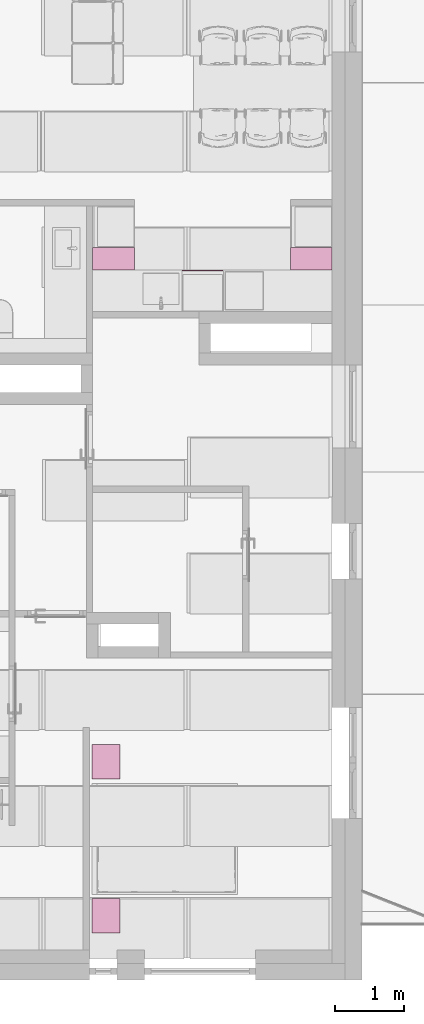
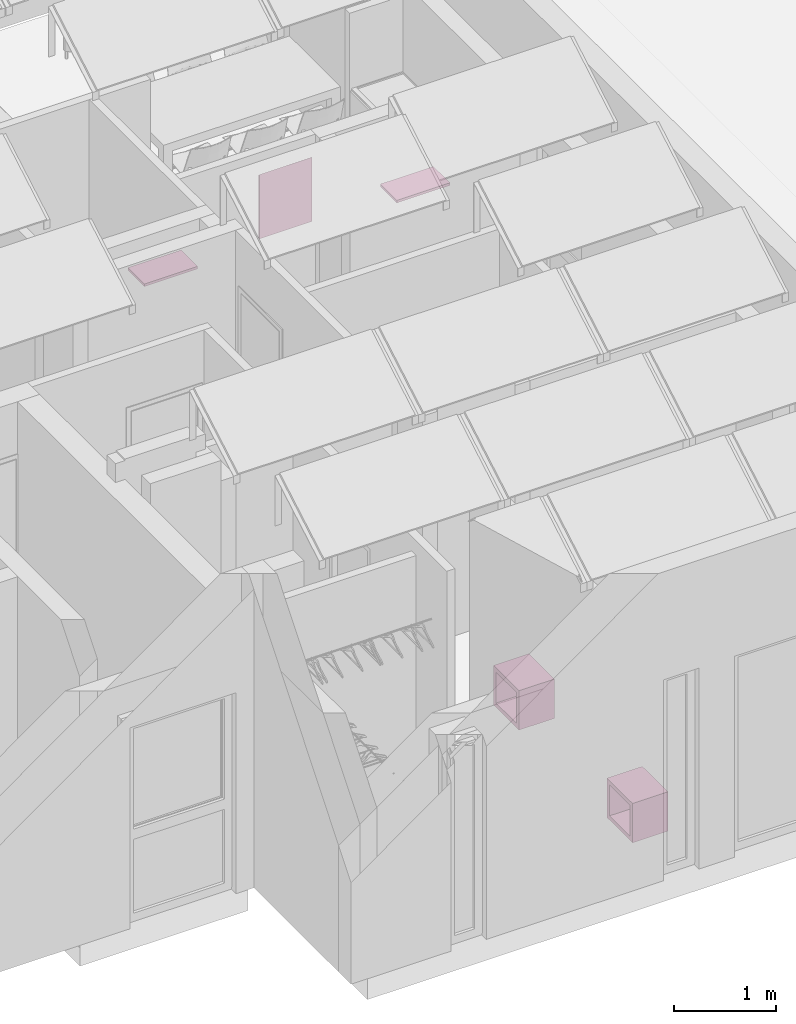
# One storey, part 37 of 57: 5 furnishings.
"""IFC2X3 building model written with IfcOpenShell, lengths in millimetres."""

from ifc_helpers import new_model, entity, si_unit, converted_unit, direction, frame, frame_2d, origin, origin_2d_with_axis, place, context, subcontext, project, spatial, polyline, rectangle, outline, extrude, source, transform, mapped, material, type_object, type_shapes, element, save


model = new_model("IFC2X3")

# Units and contexts
model_context = context("Model", 3, precision=0.01, world=origin(), true_north=direction((6.123233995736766e-17, 1.0)))
plan_context = context("Plan", 3, precision=0.01, world=origin(), true_north=direction((6.123233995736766e-17, 1.0)))
body_context = subcontext(model_context, "Body", "Model", "MODEL_VIEW")
ifc_project = project(units=[si_unit("LENGTHUNIT", "METRE", prefix="MILLI"), converted_unit("PLANEANGLEUNIT", "DEGREE", entity("IfcPlaneAngleMeasure", 0.017453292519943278), si_unit("PLANEANGLEUNIT", "RADIAN"), dimensions=[0, 0, 0, 0, 0, 0, 0]), si_unit("AREAUNIT", "SQUARE_METRE")], contexts=[model_context, plan_context])

# Site, building, storey, space
site_placement = place(None, origin())
site = spatial("IfcSite", under=ifc_project, at=site_placement, Name="Default", CompositionType="ELEMENT")
building_placement = place(site_placement, origin())
building = spatial("IfcBuilding", under=site, at=building_placement, CompositionType="ELEMENT")
storey_placement = place(building_placement, frame((0.0, 0.0, 12811.000000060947)))
storey = spatial("IfcBuildingStorey", under=building, at=storey_placement, Name="5K", CompositionType="ELEMENT", Elevation=12811.000000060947)
space_1_placement = place(storey_placement, origin())
space_1 = spatial("IfcSpace", under=storey, at=space_1_placement, Name="5-12.7", CompositionType="ELEMENT", InteriorOrExteriorSpace="INTERNAL")

# Furnishings
ifc_material = material(Name="<Unnamed>")
furniture_type_1 = type_object("IfcFurnitureType", Name="HR_Furniture_Bedside-table_Generic_v1:Default", AssemblyPlace="NOTDEFINED", material=ifc_material)
shared_shape_1 = source(origin(), body_context, "Body", "SweptSolid", [
    extrude(outline(polyline([(-250.0, -235.0), (250.0, -235.0), (250.0, 235.0), (-250.0, 235.0), (-250.0, -235.0)]), holes=[polyline([(200.0, 185.0), (200.0, -185.0), (-200.0, -185.0), (-200.0, 185.0), (200.0, 185.0)])]), frame((0.0, 0.0, -2860.0), z_axis=(0.0, 1.0, 0.0), x_axis=(-1.0, 0.0, 0.0)), (0.0, 0.0, 1.0), 400.0),
])
type_shapes(furniture_type_1, [shared_shape_1])
furnishing_1_placement = place(space_1_placement, frame((8440.0, 495.0, 3125.0), z_axis=(0.0, 0.0, 1.0), x_axis=(0.0, -1.0, 0.0)))
element("IfcFurnishingElement", 1, at=furnishing_1_placement, inside=space_1, type_object=furniture_type_1, material=ifc_material, Name="HR_Furniture_Bedside-table_Generic_v1:Default", ObjectType="HR_Furniture_Bedside-table_Generic_v1:Default", context=body_context, shape_type="MappedRepresentation", body=[
    mapped(shared_shape_1, transform((0.0, 0.0, 0.0), scale=1.0)),
])
furniture_type_2 = type_object("IfcFurnitureType", Name="HR_Furniture_Bedside-table_Generic_v1:Default", AssemblyPlace="NOTDEFINED", material=ifc_material)
shared_shape_2 = source(origin(), body_context, "Body", "SweptSolid", [
    extrude(outline(polyline([(-250.0, -235.0), (250.0, -235.0), (250.0, 235.0), (-250.0, 235.0), (-250.0, -235.0)]), holes=[polyline([(200.0, 185.0), (200.0, -185.0), (-200.0, -185.0), (-200.0, 185.0), (200.0, 185.0)])]), frame((0.0, -400.0, -2860.0), z_axis=(0.0, 1.0, 0.0), x_axis=(-1.0, 0.0, 0.0)), (0.0, 0.0, 1.0), 400.0),
])
type_shapes(furniture_type_2, [shared_shape_2])
furnishing_2_placement = place(space_1_placement, frame((8440.0, 2715.0, 3125.0), z_axis=(0.0, 0.0, 1.0), x_axis=(0.0, 1.0, 0.0)))
element("IfcFurnishingElement", 2, at=furnishing_2_placement, inside=space_1, type_object=furniture_type_2, material=ifc_material, Name="HR_Furniture_Bedside-table_Generic_v1:Default", ObjectType="HR_Furniture_Bedside-table_Generic_v1:Default", context=body_context, shape_type="MappedRepresentation", body=[
    mapped(shared_shape_2, transform((0.0, 0.0, 0.0), scale=1.0)),
])

# Space
space_2_placement = place(storey_placement, origin())
space_2 = spatial("IfcSpace", under=storey, at=space_2_placement, Name="5-12.4", CompositionType="ELEMENT", InteriorOrExteriorSpace="INTERNAL")

# Furnishings
furniture_type_3 = type_object("IfcFurnitureType", Name="HR_Casework-components_Front-panel_Generic_v1_1x:Default", AssemblyPlace="NOTDEFINED", material=ifc_material)
shared_shape_3 = source(origin(), body_context, "Body", "SweptSolid", [
    extrude(outline(polyline([(-7.0, -9.500000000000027), (15.0, -9.500000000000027), (15.0, -8.499999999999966), (-6.0, -8.499999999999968), (-6.0, 8.499999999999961), (-2.0, 8.499999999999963), (-2.0, 9.500000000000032), (-7.0, 9.500000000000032), (-7.0, -9.500000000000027)])), frame((-297.0, 367.0, 9.499999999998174), z_axis=(1.0, 0.0, 0.0), x_axis=(0.0, 1.0, 0.0)), (0.0, 0.0, 1.0), 593.9999999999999),
    extrude(rectangle(XDim=594.0, YDim=745.0000000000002, at=origin_2d_with_axis()), frame((0.0, -12.500000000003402, 0.0), z_axis=(0.0, 0.0, 1.0), x_axis=(-1.0, 0.0, 0.0)), (0.0, 0.0, 1.0), 19.00000000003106),
])
type_shapes(furniture_type_3, [shared_shape_3])
furnishing_3_placement = place(space_2_placement, frame((10035.0, 9791.0, 1385.0), z_axis=(0.0, 1.0, 0.0), x_axis=(-1.0, 0.0, 0.0)))
element("IfcFurnishingElement", 3, at=furnishing_3_placement, inside=space_2, type_object=furniture_type_3, material=ifc_material, Name="HR_Casework-components_Front-panel_Generic_v1_1x:Default", ObjectType="HR_Casework-components_Front-panel_Generic_v1_1x:Default", context=body_context, shape_type="MappedRepresentation", body=[
    mapped(shared_shape_3, transform((0.0, 0.0, 0.0), scale=1.0)),
])
furniture_type_4 = type_object("IfcFurnitureType", Name="HR_Casework_Work-surface_Generic_Rectangular_v1:Default", AssemblyPlace="NOTDEFINED", material=ifc_material)
shared_shape_4 = source(origin(), body_context, "Body", "SweptSolid", [
    extrude(rectangle(XDim=322.99999999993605, YDim=600.0, at=frame_2d((8.810729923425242e-13, 0.0), x_axis=(1.0, 0.0))), frame((0.0, 300.0, -11941.000000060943)), (0.0, 0.0, 1.0), 29.999999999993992),
])
type_shapes(furniture_type_4, [shared_shape_4])
for number, where, z_axis, x_axis, name in (
    (4, (11900.0, 9971.499999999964, 12811.000000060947), (0.0, 0.0, 1.0), (0.0, 1.0, 0.0), "HR_Casework_Work-surface_Generic_Rectangular_v1:Default"),
    (5, (9050.0, 9971.499999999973, 12811.000000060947), (0.0, 0.0, 1.0), (0.0, 1.0, 0.0), "HR_Casework_Work-surface_Generic_Rectangular_v1:Default"),
):
    element("IfcFurnishingElement", number, at=place(space_2_placement, frame(where, z_axis=z_axis, x_axis=x_axis)), inside=space_2, type_object=furniture_type_4, material=ifc_material, Name=name, ObjectType="HR_Casework_Work-surface_Generic_Rectangular_v1:Default", context=body_context, shape_type="MappedRepresentation", body=[
        mapped(shared_shape_4, transform((0.0, 0.0, 0.0), scale=1.0)),
    ])

save(model, "model.ifc")
